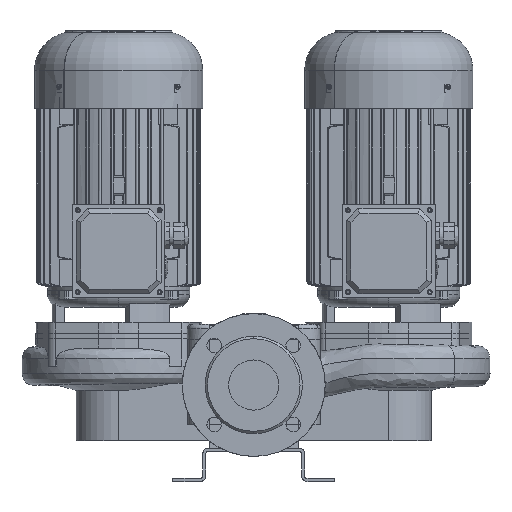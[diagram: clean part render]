
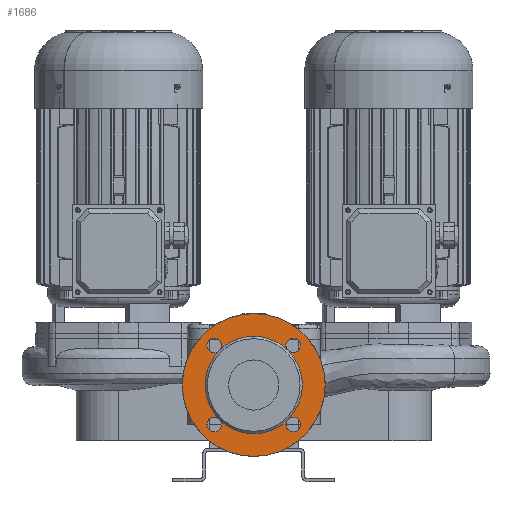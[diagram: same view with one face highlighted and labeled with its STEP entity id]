
A CAD part, front view. The second image highlights one B-rep face of the part: STEP entity #1686.
In plain terms, the highlighted planar face has unit normal (0, -1, 0) as drawn and (0, 1, 0) by its records, which use the part's own axes.
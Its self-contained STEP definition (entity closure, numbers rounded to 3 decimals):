
#1686=ADVANCED_FACE('',(#3387,#3388),#3389,.T.);
#1818=EDGE_CURVE('',#3612,#3613,#3614,.T.);
#1820=EDGE_CURVE('',#3616,#3612,#3617,.T.);
#1822=EDGE_CURVE('',#3619,#3616,#3620,.T.);
#1826=EDGE_CURVE('',#3626,#3627,#3628,.T.);
#1830=EDGE_CURVE('',#3634,#3635,#3636,.T.);
#1834=EDGE_CURVE('',#3642,#3643,#3644,.T.);
#1838=EDGE_CURVE('',#3650,#3651,#3652,.T.);
#1842=EDGE_CURVE('',#3658,#3659,#3660,.T.);
#1968=EDGE_CURVE('',#3659,#3658,#3852,.T.);
#1972=EDGE_CURVE('',#3616,#3650,#3856,.T.);
#1974=EDGE_CURVE('',#3651,#3616,#3858,.T.);
#1976=EDGE_CURVE('',#3612,#3642,#3860,.T.);
#1978=EDGE_CURVE('',#3643,#3612,#3862,.T.);
#1980=EDGE_CURVE('',#3864,#3634,#3865,.T.);
#1982=EDGE_CURVE('',#3635,#3864,#3867,.T.);
#1984=EDGE_CURVE('',#3869,#3626,#3870,.T.);
#1986=EDGE_CURVE('',#3627,#3869,#3872,.T.);
#1988=EDGE_CURVE('',#3613,#3864,#3874,.T.);
#1990=EDGE_CURVE('',#3864,#3869,#3876,.T.);
#1992=EDGE_CURVE('',#3869,#3619,#3878,.T.);
#3387=FACE_OUTER_BOUND('',#8771,.T.);
#3388=FACE_BOUND('',#8772,.T.);
#3389=PLANE('',#8773);
#3612=VERTEX_POINT('',#9678);
#3613=VERTEX_POINT('',#9679);
#3614=CIRCLE('',#9680,63.0);
#3616=VERTEX_POINT('',#9683);
#3617=CIRCLE('',#9684,63.0);
#3619=VERTEX_POINT('',#9687);
#3620=CIRCLE('',#9688,63.0);
#3626=VERTEX_POINT('',#9696);
#3627=VERTEX_POINT('',#9697);
#3628=CIRCLE('',#9698,9.5);
#3634=VERTEX_POINT('',#9706);
#3635=VERTEX_POINT('',#9707);
#3636=CIRCLE('',#9708,9.5);
#3642=VERTEX_POINT('',#9716);
#3643=VERTEX_POINT('',#9717);
#3644=CIRCLE('',#9718,9.5);
#3650=VERTEX_POINT('',#9726);
#3651=VERTEX_POINT('',#9727);
#3652=CIRCLE('',#9728,9.5);
#3658=VERTEX_POINT('',#9736);
#3659=VERTEX_POINT('',#9737);
#3660=CIRCLE('',#9738,92.5);
#3852=CIRCLE('',#10062,92.5);
#3856=CIRCLE('',#10068,9.5);
#3858=CIRCLE('',#10071,9.5);
#3860=CIRCLE('',#10074,9.5);
#3862=CIRCLE('',#10077,9.5);
#3864=VERTEX_POINT('',#10080);
#3865=CIRCLE('',#10081,9.5);
#3867=CIRCLE('',#10084,9.5);
#3869=VERTEX_POINT('',#10087);
#3870=CIRCLE('',#10088,9.5);
#3872=CIRCLE('',#10091,9.5);
#3874=CIRCLE('',#10094,63.0);
#3876=CIRCLE('',#10097,63.0);
#3878=CIRCLE('',#10100,63.0);
#8771=EDGE_LOOP('',(#16003,#16004));
#8772=EDGE_LOOP('',(#16005,#16006,#16007,#16008,#16009,#16010,#16011,#16012,#16013,#16014,#16015,#16016,#16017,#16018,#16019,#16020,#16021,#16022));
#8773=AXIS2_PLACEMENT_3D('',#16023,#16024,#16025);
#9678=CARTESIAN_POINT('',(44.548,217.,20.048));
#9679=CARTESIAN_POINT('',(0.,217.0,38.5));
#9680=AXIS2_PLACEMENT_3D('',#16505,#16506,#16507);
#9683=CARTESIAN_POINT('',(44.548,217.0,-69.048));
#9684=AXIS2_PLACEMENT_3D('',#16508,#16509,#16510);
#9687=CARTESIAN_POINT('',(0.,217.0,-87.5));
#9688=AXIS2_PLACEMENT_3D('',#16511,#16512,#16513);
#9696=CARTESIAN_POINT('',(-56.624,217.0,-67.921));
#9697=CARTESIAN_POINT('',(-45.906,217.0,-83.609));
#9698=AXIS2_PLACEMENT_3D('',#16517,#16518,#16519);
#9706=CARTESIAN_POINT('',(-43.421,217.,32.124));
#9707=CARTESIAN_POINT('',(-59.109,217.,21.406));
#9708=AXIS2_PLACEMENT_3D('',#16523,#16524,#16525);
#9716=CARTESIAN_POINT('',(56.624,217.,18.921));
#9717=CARTESIAN_POINT('',(45.906,217.,34.609));
#9718=AXIS2_PLACEMENT_3D('',#16529,#16530,#16531);
#9726=CARTESIAN_POINT('',(43.421,217.0,-81.124));
#9727=CARTESIAN_POINT('',(59.109,217.0,-70.406));
#9728=AXIS2_PLACEMENT_3D('',#16535,#16536,#16537);
#9736=CARTESIAN_POINT('',(0.,217.0,-117.0));
#9737=CARTESIAN_POINT('',(0.,217.0,68.0));
#9738=AXIS2_PLACEMENT_3D('',#16541,#16542,#16543);
#10062=AXIS2_PLACEMENT_3D('',#16677,#16678,#16679);
#10068=AXIS2_PLACEMENT_3D('',#16683,#16684,#16685);
#10071=AXIS2_PLACEMENT_3D('',#16686,#16687,#16688);
#10074=AXIS2_PLACEMENT_3D('',#16689,#16690,#16691);
#10077=AXIS2_PLACEMENT_3D('',#16692,#16693,#16694);
#10080=CARTESIAN_POINT('',(-44.548,217.,20.048));
#10081=AXIS2_PLACEMENT_3D('',#16695,#16696,#16697);
#10084=AXIS2_PLACEMENT_3D('',#16698,#16699,#16700);
#10087=CARTESIAN_POINT('',(-44.548,217.0,-69.048));
#10088=AXIS2_PLACEMENT_3D('',#16701,#16702,#16703);
#10091=AXIS2_PLACEMENT_3D('',#16704,#16705,#16706);
#10094=AXIS2_PLACEMENT_3D('',#16707,#16708,#16709);
#10097=AXIS2_PLACEMENT_3D('',#16710,#16711,#16712);
#10100=AXIS2_PLACEMENT_3D('',#16713,#16714,#16715);
#16003=ORIENTED_EDGE('',*,*,#1968,.F.);
#16004=ORIENTED_EDGE('',*,*,#1842,.F.);
#16005=ORIENTED_EDGE('',*,*,#1818,.T.);
#16006=ORIENTED_EDGE('',*,*,#1988,.T.);
#16007=ORIENTED_EDGE('',*,*,#1980,.T.);
#16008=ORIENTED_EDGE('',*,*,#1830,.T.);
#16009=ORIENTED_EDGE('',*,*,#1982,.T.);
#16010=ORIENTED_EDGE('',*,*,#1990,.T.);
#16011=ORIENTED_EDGE('',*,*,#1984,.T.);
#16012=ORIENTED_EDGE('',*,*,#1826,.T.);
#16013=ORIENTED_EDGE('',*,*,#1986,.T.);
#16014=ORIENTED_EDGE('',*,*,#1992,.T.);
#16015=ORIENTED_EDGE('',*,*,#1822,.T.);
#16016=ORIENTED_EDGE('',*,*,#1972,.T.);
#16017=ORIENTED_EDGE('',*,*,#1838,.T.);
#16018=ORIENTED_EDGE('',*,*,#1974,.T.);
#16019=ORIENTED_EDGE('',*,*,#1820,.T.);
#16020=ORIENTED_EDGE('',*,*,#1976,.T.);
#16021=ORIENTED_EDGE('',*,*,#1834,.T.);
#16022=ORIENTED_EDGE('',*,*,#1978,.T.);
#16023=CARTESIAN_POINT('',(0.,217.0,-102.25));
#16024=DIRECTION('',(0.0,1.0,0.0));
#16025=DIRECTION('',(0.0,0.0,1.0));
#16505=CARTESIAN_POINT('',(0.,217.0,-24.5));
#16506=DIRECTION('',(0.0,-1.0,0.0));
#16507=DIRECTION('',(0.0,0.0,-1.0));
#16508=CARTESIAN_POINT('',(0.,217.0,-24.5));
#16509=DIRECTION('',(0.0,-1.0,0.0));
#16510=DIRECTION('',(0.0,0.0,-1.0));
#16511=CARTESIAN_POINT('',(0.,217.0,-24.5));
#16512=DIRECTION('',(0.0,-1.0,0.0));
#16513=DIRECTION('',(0.0,0.0,-1.0));
#16517=CARTESIAN_POINT('',(-51.265,217.0,-75.765));
#16518=DIRECTION('',(0.0,-1.0,0.0));
#16519=DIRECTION('',(-0.564,0.0,0.826));
#16523=CARTESIAN_POINT('',(-51.265,217.,26.765));
#16524=DIRECTION('',(0.0,-1.0,0.0));
#16525=DIRECTION('',(0.826,0.0,0.564));
#16529=CARTESIAN_POINT('',(51.265,217.,26.765));
#16530=DIRECTION('',(0.0,-1.0,0.0));
#16531=DIRECTION('',(0.564,0.0,-0.826));
#16535=CARTESIAN_POINT('',(51.265,217.0,-75.765));
#16536=DIRECTION('',(0.0,-1.0,-0.0));
#16537=DIRECTION('',(-0.826,0.0,-0.564));
#16541=CARTESIAN_POINT('',(0.,217.0,-24.5));
#16542=DIRECTION('',(0.0,-1.0,0.0));
#16543=DIRECTION('',(0.0,0.0,-1.0));
#16677=CARTESIAN_POINT('',(0.,217.0,-24.5));
#16678=DIRECTION('',(0.0,-1.0,0.0));
#16679=DIRECTION('',(0.0,0.0,-1.0));
#16683=CARTESIAN_POINT('',(51.265,217.0,-75.765));
#16684=DIRECTION('',(0.0,-1.0,-0.0));
#16685=DIRECTION('',(-0.826,0.0,-0.564));
#16686=CARTESIAN_POINT('',(51.265,217.0,-75.765));
#16687=DIRECTION('',(0.0,-1.0,-0.0));
#16688=DIRECTION('',(-0.826,0.0,-0.564));
#16689=CARTESIAN_POINT('',(51.265,217.,26.765));
#16690=DIRECTION('',(0.0,-1.0,0.0));
#16691=DIRECTION('',(0.564,0.0,-0.826));
#16692=CARTESIAN_POINT('',(51.265,217.,26.765));
#16693=DIRECTION('',(0.0,-1.0,0.0));
#16694=DIRECTION('',(0.564,0.0,-0.826));
#16695=CARTESIAN_POINT('',(-51.265,217.,26.765));
#16696=DIRECTION('',(0.0,-1.0,0.0));
#16697=DIRECTION('',(0.826,0.0,0.564));
#16698=CARTESIAN_POINT('',(-51.265,217.,26.765));
#16699=DIRECTION('',(0.0,-1.0,0.0));
#16700=DIRECTION('',(0.826,0.0,0.564));
#16701=CARTESIAN_POINT('',(-51.265,217.0,-75.765));
#16702=DIRECTION('',(0.0,-1.0,0.0));
#16703=DIRECTION('',(-0.564,0.0,0.826));
#16704=CARTESIAN_POINT('',(-51.265,217.0,-75.765));
#16705=DIRECTION('',(0.0,-1.0,0.0));
#16706=DIRECTION('',(-0.564,0.0,0.826));
#16707=CARTESIAN_POINT('',(0.,217.0,-24.5));
#16708=DIRECTION('',(0.0,-1.0,0.0));
#16709=DIRECTION('',(0.0,0.0,-1.0));
#16710=CARTESIAN_POINT('',(0.,217.0,-24.5));
#16711=DIRECTION('',(0.0,-1.0,0.0));
#16712=DIRECTION('',(0.0,0.0,-1.0));
#16713=CARTESIAN_POINT('',(0.,217.0,-24.5));
#16714=DIRECTION('',(0.0,-1.0,0.0));
#16715=DIRECTION('',(0.0,0.0,-1.0));
